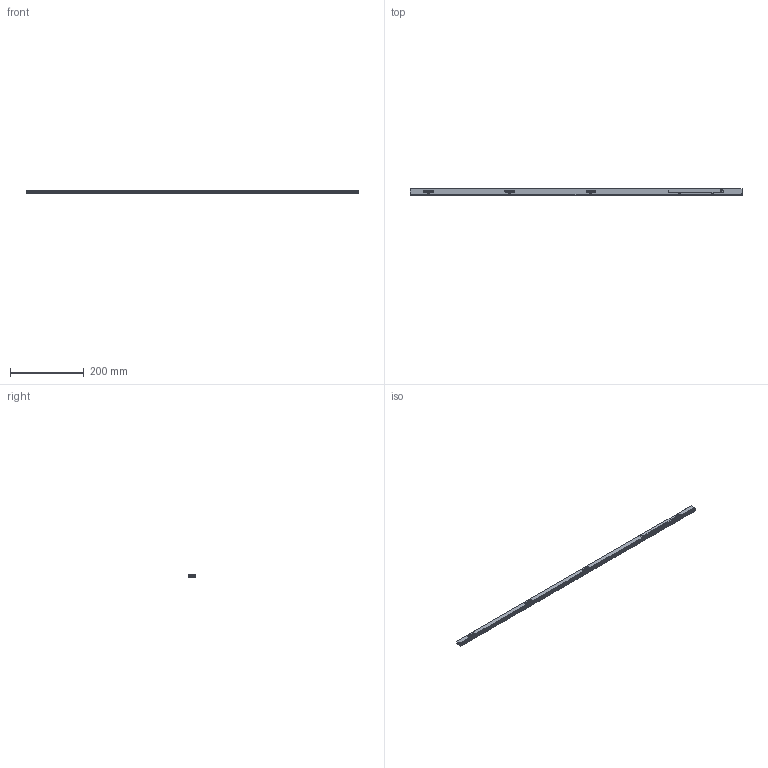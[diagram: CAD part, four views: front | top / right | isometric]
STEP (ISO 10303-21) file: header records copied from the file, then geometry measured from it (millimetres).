
FILE_DESCRIPTION (( 'STEP AP203' ), '1' );
FILE_NAME ('BD0215 Slit.STEP', '2025-08-04T01:44:28', ( '' ), ( '' ), 'SwSTEP 2.0', 'SolidWorks 2020', '' );
FILE_SCHEMA (( 'CONFIG_CONTROL_DESIGN' ));
Length unit declared in the file: millimetre
Products named in the file (14): M2_3-01.stp; DALI_PCB.stp; KC-0006-0087.stp; KC-0006-0025.stp; KC-0006-0032.stp; KC-0006-0024.stp; 4014-LED-MODULE-900.stp; KC-0006-0023.stp; M2_5-01.stp; BD0215 Slit; KC-0006-0088.stp; M2_4-01.stp; KC-0006-0005.stp; KC-0006-0004.stp
Assembly tree (32 placements, depth 2):
  BD0215 Slit
    KC-0006-0087.stp
    KC-0006-0023.stp
    DALI_PCB.stp
    KC-0006-0024.stp
    KC-0006-0004.stp  x4
    KC-0006-0005.stp  x4
    4014-LED-MODULE-900.stp
    KC-0006-0088.stp
    KC-0006-0032.stp  x2
    KC-0006-0025.stp  x3
    M2_3-01.stp  x4
    M2_5-01.stp  x3
    M2_4-01.stp  x6
Bounding box: 900 x 17.7 x 8.89 mm (x, y, z)
Volume: 67447.6 mm3; surface area: 117733.6 mm2
Topology: 32 solids, 34 shells, 11279 faces, 28416 edges, 18262 vertices
Faces by surface type: plane 9169, cylinder 1575, cone 255, bspline 186, torus 54, sphere 40
Entity records: 308617 total; most frequent: CARTESIAN_POINT 66775, ORIENTED_EDGE 51796, DIRECTION 44698, EDGE_CURVE 25898, LINE 22518, VECTOR 22518, VERTEX_POINT 16673, EDGE_LOOP 11443
